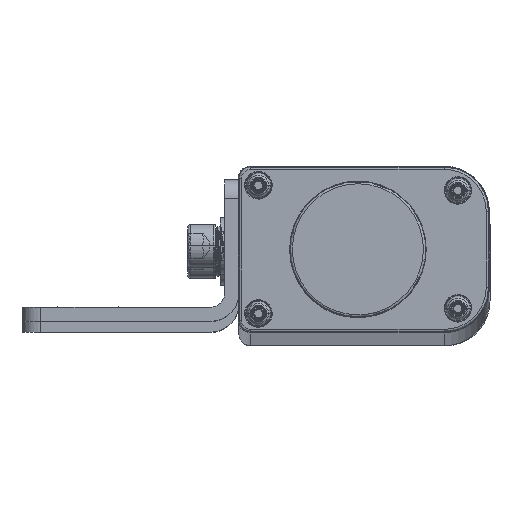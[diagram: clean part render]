
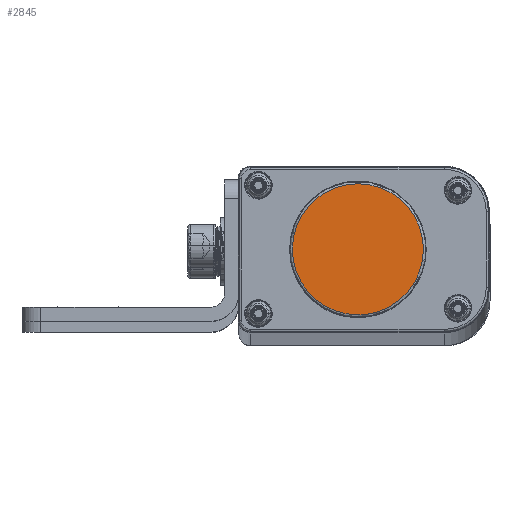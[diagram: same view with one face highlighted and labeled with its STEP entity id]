
A CAD part, top view. The second image highlights one B-rep face of the part: STEP entity #2845.
In plain terms, the highlighted planar face has unit normal (0, 0, 1) as drawn and (0, 1, 0) by its records, which use the part's own axes.
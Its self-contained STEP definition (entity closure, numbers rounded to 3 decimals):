
#1802=CARTESIAN_POINT('',(0.,17.,1.25));
#1803=DIRECTION('',(0.,1.,0.));
#1804=DIRECTION('',(-1.,0.,-0.007));
#1805=AXIS2_PLACEMENT_3D('',#1802,#1803,#1804);
#1807=CARTESIAN_POINT('',(0.,17.,1.25));
#1808=DIRECTION('',(0.,1.,0.));
#1809=DIRECTION('',(1.,0.,0.));
#1810=AXIS2_PLACEMENT_3D('',#1807,#1808,#1809);
#1812=CARTESIAN_POINT('',(0.,17.,1.25));
#1813=DIRECTION('',(0.,1.,0.));
#1814=DIRECTION('',(1.,0.,0.007));
#1815=AXIS2_PLACEMENT_3D('',#1812,#1813,#1814);
#1817=CARTESIAN_POINT('',(0.,17.,1.25));
#1818=DIRECTION('',(0.,1.,0.));
#1819=DIRECTION('',(-1.,0.,0.));
#1820=AXIS2_PLACEMENT_3D('',#1817,#1818,#1819);
#1852=CARTESIAN_POINT('',(13.904,17.,1.348));
#1853=CARTESIAN_POINT('',(13.904,17.,1.25));
#1854=VERTEX_POINT('',#1852);
#1855=VERTEX_POINT('',#1853);
#1872=CARTESIAN_POINT('',(-13.904,17.,1.152));
#1873=CARTESIAN_POINT('',(-13.904,17.,1.25));
#1874=VERTEX_POINT('',#1872);
#1875=VERTEX_POINT('',#1873);
#2834=CARTESIAN_POINT('',(0.,17.,0.));
#2835=DIRECTION('',(0.,1.,0.));
#2836=DIRECTION('',(0.,0.,1.));
#2837=AXIS2_PLACEMENT_3D('',#2834,#2835,#2836);
#2838=PLANE('',#2837);
#2839=ORIENTED_EDGE('',*,*,#2822,.F.);
#2840=ORIENTED_EDGE('',*,*,#2812,.F.);
#2841=ORIENTED_EDGE('',*,*,#2810,.F.);
#2842=ORIENTED_EDGE('',*,*,#2824,.F.);
#2843=EDGE_LOOP('',(#2839,#2840,#2841,#2842));
#2844=FACE_OUTER_BOUND('',#2843,.F.);
#2845=ADVANCED_FACE('',(#2844),#2838,.T.);
#1806=CIRCLE('',#1805,13.904);
#1811=CIRCLE('',#1810,13.904);
#1816=CIRCLE('',#1815,13.904);
#1821=CIRCLE('',#1820,13.904);
#2810=EDGE_CURVE('',#1854,#1855,#1816,.T.);
#2812=EDGE_CURVE('',#1855,#1874,#1811,.T.);
#2822=EDGE_CURVE('',#1874,#1875,#1806,.T.);
#2824=EDGE_CURVE('',#1875,#1854,#1821,.T.);
